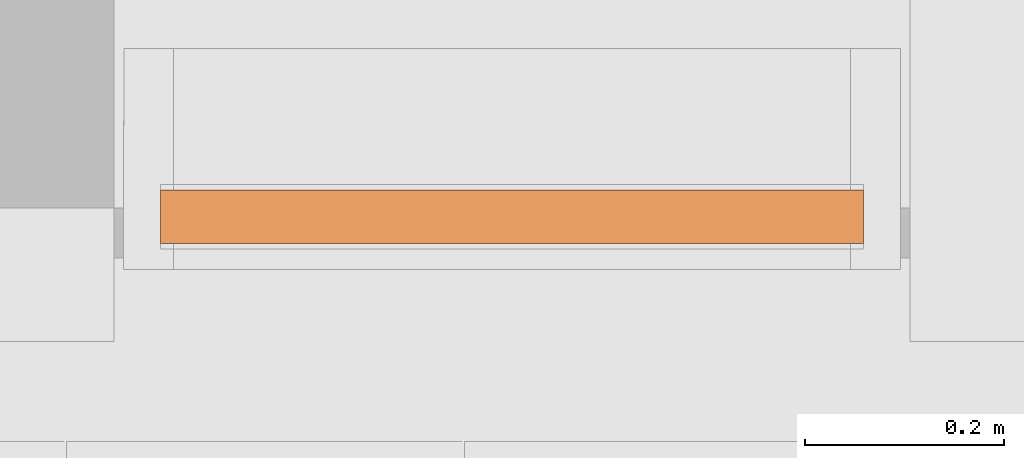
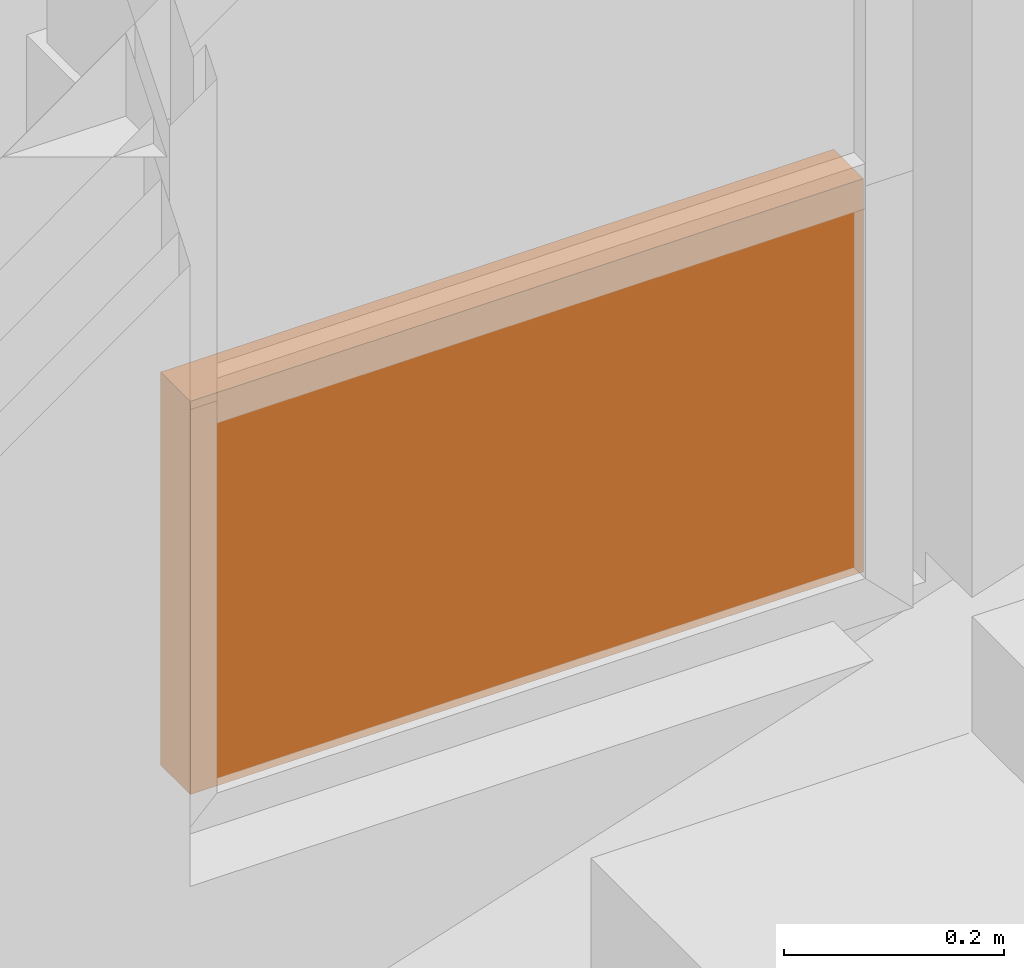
# One storey, part 246 of 246: 1 proxy, 1 element without a shape of its own.
"""IFC2X3 building model written with IfcOpenShell, lengths in millimetres."""

from ifc_helpers import new_model, entity, si_unit, converted_unit, derived_unit, money_unit, direction, frame, origin_with_axes, place, context, subcontext, project, spatial, faceted_brep, material, type_object, element, aggregate, save


model = new_model("IFC2X3")

# Units and contexts
model_context = context("Model", 3, precision=0.01, world=origin_with_axes(), true_north=direction((0.0, 1.0)))
body_context = subcontext(model_context, "Body", "Model", "MODEL_VIEW")
ifc_project = project(units=[si_unit("LENGTHUNIT", "METRE", prefix="MILLI"), si_unit("AREAUNIT", "SQUARE_METRE"), si_unit("VOLUMEUNIT", "CUBIC_METRE"), converted_unit("PLANEANGLEUNIT", "DEGREE", entity("IfcPlaneAngleMeasure", 0.0174532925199), si_unit("PLANEANGLEUNIT", "RADIAN"), dimensions=[0, 0, 0, 0, 0, 0, 0]), si_unit("SOLIDANGLEUNIT", "STERADIAN"), money_unit("EUR"), converted_unit("TIMEUNIT", "Year", entity("IfcTimeMeasure", 31556926.0), si_unit("TIMEUNIT", "SECOND"), dimensions=[0, 0, 1, 0, 0, 0, 0]), si_unit("MASSUNIT", "GRAM", prefix="KILO"), si_unit("THERMODYNAMICTEMPERATUREUNIT", "DEGREE_CELSIUS"), si_unit("LUMINOUSINTENSITYUNIT", "LUMEN"), si_unit("ENERGYUNIT", "JOULE", prefix="MEGA"), derived_unit("THERMALCONDUCTANCEUNIT", [(si_unit("POWERUNIT", "WATT"), 1), (si_unit("LENGTHUNIT", "METRE"), -1), (si_unit("THERMODYNAMICTEMPERATUREUNIT", "KELVIN"), -1)]), derived_unit("SPECIFICHEATCAPACITYUNIT", [(si_unit("ENERGYUNIT", "JOULE"), 1), (si_unit("MASSUNIT", "GRAM", prefix="KILO"), -1), (si_unit("THERMODYNAMICTEMPERATUREUNIT", "KELVIN"), -1)]), derived_unit("MASSDENSITYUNIT", [(si_unit("MASSUNIT", "GRAM", prefix="KILO"), 1), (si_unit("VOLUMEUNIT", "CUBIC_METRE"), -1)])], contexts=[model_context])

# Site, building, storey
site_placement = place(None, origin_with_axes())
site = spatial("IfcSite", under=ifc_project, at=site_placement, Name="L.Koidula tn 11b", CompositionType="ELEMENT")
building_placement = place(site_placement, origin_with_axes())
building = spatial("IfcBuilding", under=site, at=building_placement, Name="Rakvere Riigigümnaasium", CompositionType="ELEMENT")
storey_placement = place(building_placement, origin_with_axes())
storey = spatial("IfcBuildingStorey", under=building, at=storey_placement, Name="1.korrus 0,00", CompositionType="ELEMENT", Elevation=0.0)

# Curtain wall, proxy
curtain_wall_type = type_object("IfcCurtainWallType", Name="Curtain Wall Type", PredefinedType="NOTDEFINED")
curtain_wall_placement = place(storey_placement, frame((102199.946081, 5111.65323731, 2560.0), z_axis=(0.0, 0.0, 1.0), x_axis=(1.0, 0.0, 0.0)))
curtain_wall = element("IfcCurtainWall", 1, at=curtain_wall_placement, inside=storey, type_object=curtain_wall_type, Name="KLF-05-4A3")
ifc_material = material(Name="Klaaspakett- taustvärvitud klaas 3x")
building_element_proxy_type = type_object("IfcBuildingElementProxyType", Name="706 x 436 x 54", PredefinedType="NOTDEFINED")
proxy_placement = place(curtain_wall_placement, frame((0.0, 0.0, 242.5), z_axis=(0.0, 0.0, 1.0), x_axis=(-0.999999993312, 0.00011565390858, 0.0)))
proxy = element("IfcBuildingElementProxy", 2, at=proxy_placement, type_object=building_element_proxy_type, material=ifc_material, Name="KLF-65", context=body_context, shape_type="Brep", body=[
    faceted_brep([(-352.999807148, -27.0000000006, 230.499995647), (352.999807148, -27.0, 230.499995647), (352.999807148, 27.0, 230.499995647), (-352.999807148, 26.9999999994, 230.499995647), (-352.999807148, -27.0000000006, -205.499996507), (352.999807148, -27.0, -205.499996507), (352.999807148, 27.0, -205.499996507), (-352.999807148, 26.9999999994, -205.499996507)], [[[0, 1, 2, 3]], [[0, 4, 5, 1]], [[1, 5, 6, 2]], [[3, 2, 6, 7]], [[4, 0, 3, 7]], [[5, 4, 7, 6]]]),
])
aggregate(curtain_wall, [proxy])

save(model, "model.ifc")
